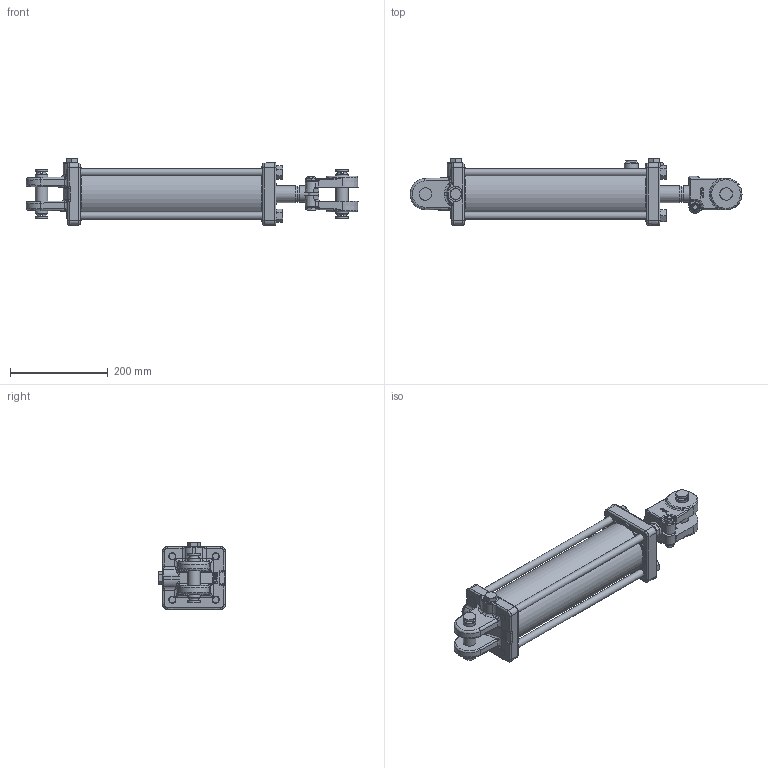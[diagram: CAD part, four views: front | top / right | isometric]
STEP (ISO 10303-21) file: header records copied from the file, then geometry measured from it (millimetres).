
FILE_DESCRIPTION(/* description */ ('TUBE'),/* implementation_level */ '2;1');
FILE_NAME(/* name */ '\\SRVR-ENG\EngSales\Cylinders\PMS-AM-2558A.stp',/* time_stamp */ '2014-01-20T13:14:07-06:00',/* author */ ('KneiflD'),/* organization */ (''),/* preprocessor_version */ 'ST-DEVELOPER v15.2',/* originating_system */ 'Autodesk Inventor 2014',/* authorisation */ '');
FILE_SCHEMA (('AUTOMOTIVE_DESIGN { 1 0 10303 214 3 1 1 }'));
Length unit declared in the file: inch
Products named in the file (21): 051800033V; 200300181V; 061800022V; 141800009V; 081800021V; 210700077V; 081800022V; 010700698V; 100000576V; 170002105; 220000223; 100000577V; 071800032V; 220000210; 200300104V; 200300040V; 190400004V; 170301173V; 220000107V; 170301173AV; PMS-AM-2558AV
Bounding box: 680.21 x 136.99 x 136.99 mm (x, y, z)
Volume: 2988197.4 mm3; surface area: 650917.1 mm2
Topology: 25 solids, 25 shells, 1017 faces, 2386 edges, 1426 vertices
Faces by surface type: plane 340, bspline 233, cylinder 219, cone 175, torus 39, sphere 11
Full cylindrical faces by diameter (mm): 1.575 x1, 2.769 x1, 5.156 x2, 5.159 x2, 7.938 x3, 9.144 x1, 11.112 x1, 11.906 x2, 14.351 x8, 14.834 x4, 15.875 x3, 16.281 x4, 16.764 x3, 17.501 x4, 19.05 x4, 22.352 x1, 23.444 x1, 25.349 x1, 25.4 x6, 25.476 x1, 25.781 x4, 28.575 x1, 30.556 x1, 33.147 x1, 34.9 x2, 34.925 x2, 35.077 x1, 37.363 x1, 38.882 x1, 38.894 x1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
Entity records: 30899 total; most frequent: CARTESIAN_POINT 12206, ORIENTED_EDGE 3762, DIRECTION 3366, EDGE_CURVE 1881, AXIS2_PLACEMENT_3D 1327, VERTEX_POINT 1208, EDGE_LOOP 1079, ADVANCED_FACE 864
